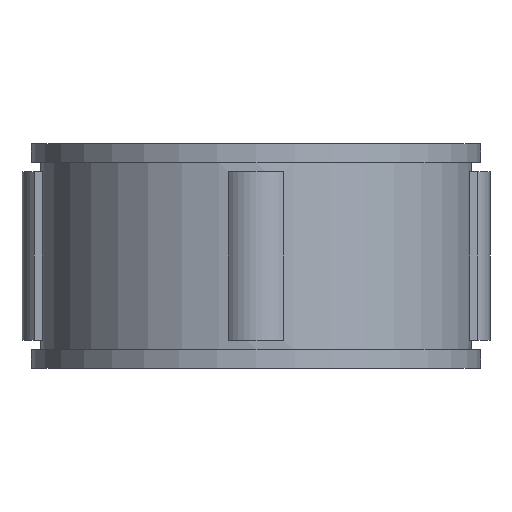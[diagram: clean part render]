
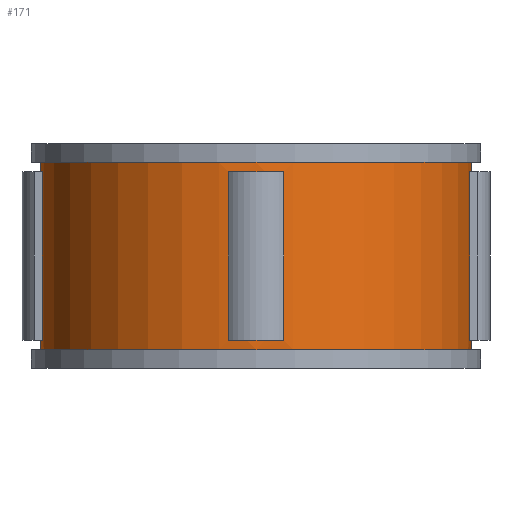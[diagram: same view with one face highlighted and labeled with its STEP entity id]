
A CAD part, front view. The second image highlights one B-rep face of the part: STEP entity #171.
In plain terms, the highlighted cylindrical face has radius 11.5 mm (diameter 23 mm), a full revolution.
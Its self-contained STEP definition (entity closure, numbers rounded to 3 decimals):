
#171=ADVANCED_FACE('',(#359,#360,#361,#362,#363,#364),#219,.T.);
#219=CYLINDRICAL_SURFACE('',#882,11.5);
#231=LINE('',#1207,#295);
#232=LINE('',#1212,#296);
#233=LINE('',#1215,#297);
#234=LINE('',#1220,#298);
#235=LINE('',#1223,#299);
#236=LINE('',#1228,#300);
#237=LINE('',#1234,#301);
#238=LINE('',#1238,#302);
#295=VECTOR('',#966,1.);
#296=VECTOR('',#969,1.);
#297=VECTOR('',#972,1.);
#298=VECTOR('',#975,1.);
#299=VECTOR('',#978,1.);
#300=VECTOR('',#981,1.);
#301=VECTOR('',#986,1.);
#302=VECTOR('',#989,1.);
#359=FACE_BOUND('',#383,.T.);
#360=FACE_BOUND('',#384,.T.);
#361=FACE_BOUND('',#385,.T.);
#362=FACE_BOUND('',#386,.T.);
#363=FACE_BOUND('',#387,.T.);
#364=FACE_BOUND('',#388,.T.);
#383=EDGE_LOOP('',(#447));
#384=EDGE_LOOP('',(#448));
#385=EDGE_LOOP('',(#449,#450,#451,#452));
#386=EDGE_LOOP('',(#453,#454,#455,#456));
#387=EDGE_LOOP('',(#457,#458,#459,#460));
#388=EDGE_LOOP('',(#461,#462,#463,#464));
#447=ORIENTED_EDGE('',*,*,#727,.F.);
#448=ORIENTED_EDGE('',*,*,#728,.T.);
#449=ORIENTED_EDGE('',*,*,#729,.F.);
#450=ORIENTED_EDGE('',*,*,#730,.T.);
#451=ORIENTED_EDGE('',*,*,#731,.F.);
#452=ORIENTED_EDGE('',*,*,#732,.F.);
#453=ORIENTED_EDGE('',*,*,#733,.F.);
#454=ORIENTED_EDGE('',*,*,#734,.T.);
#455=ORIENTED_EDGE('',*,*,#735,.F.);
#456=ORIENTED_EDGE('',*,*,#736,.F.);
#457=ORIENTED_EDGE('',*,*,#737,.F.);
#458=ORIENTED_EDGE('',*,*,#738,.T.);
#459=ORIENTED_EDGE('',*,*,#739,.F.);
#460=ORIENTED_EDGE('',*,*,#740,.F.);
#461=ORIENTED_EDGE('',*,*,#741,.F.);
#462=ORIENTED_EDGE('',*,*,#742,.T.);
#463=ORIENTED_EDGE('',*,*,#743,.T.);
#464=ORIENTED_EDGE('',*,*,#744,.T.);
#655=VERTEX_POINT('',#1204);
#656=VERTEX_POINT('',#1206);
#657=VERTEX_POINT('',#1208);
#658=VERTEX_POINT('',#1209);
#659=VERTEX_POINT('',#1211);
#660=VERTEX_POINT('',#1213);
#661=VERTEX_POINT('',#1216);
#662=VERTEX_POINT('',#1217);
#663=VERTEX_POINT('',#1219);
#664=VERTEX_POINT('',#1221);
#665=VERTEX_POINT('',#1224);
#666=VERTEX_POINT('',#1225);
#667=VERTEX_POINT('',#1227);
#668=VERTEX_POINT('',#1229);
#669=VERTEX_POINT('',#1232);
#670=VERTEX_POINT('',#1233);
#671=VERTEX_POINT('',#1235);
#672=VERTEX_POINT('',#1237);
#727=EDGE_CURVE('',#655,#655,#831,.T.);
#728=EDGE_CURVE('',#656,#656,#832,.T.);
#729=EDGE_CURVE('',#657,#658,#231,.T.);
#730=EDGE_CURVE('',#657,#659,#833,.T.);
#731=EDGE_CURVE('',#660,#659,#232,.T.);
#732=EDGE_CURVE('',#658,#660,#834,.T.);
#733=EDGE_CURVE('',#661,#662,#233,.T.);
#734=EDGE_CURVE('',#661,#663,#835,.T.);
#735=EDGE_CURVE('',#664,#663,#234,.T.);
#736=EDGE_CURVE('',#662,#664,#836,.T.);
#737=EDGE_CURVE('',#665,#666,#235,.T.);
#738=EDGE_CURVE('',#665,#667,#837,.T.);
#739=EDGE_CURVE('',#668,#667,#236,.T.);
#740=EDGE_CURVE('',#666,#668,#838,.T.);
#741=EDGE_CURVE('',#669,#670,#839,.T.);
#742=EDGE_CURVE('',#669,#671,#237,.T.);
#743=EDGE_CURVE('',#671,#672,#840,.T.);
#744=EDGE_CURVE('',#672,#670,#238,.T.);
#831=CIRCLE('',#872,11.5);
#832=CIRCLE('',#873,11.5);
#833=CIRCLE('',#874,11.5);
#834=CIRCLE('',#875,11.5);
#835=CIRCLE('',#876,11.5);
#836=CIRCLE('',#877,11.5);
#837=CIRCLE('',#878,11.5);
#838=CIRCLE('',#879,11.5);
#839=CIRCLE('',#880,11.5);
#840=CIRCLE('',#881,11.5);
#872=AXIS2_PLACEMENT_3D('',#1203,#962,#963);
#873=AXIS2_PLACEMENT_3D('',#1205,#964,#965);
#874=AXIS2_PLACEMENT_3D('',#1210,#967,#968);
#875=AXIS2_PLACEMENT_3D('',#1214,#970,#971);
#876=AXIS2_PLACEMENT_3D('',#1218,#973,#974);
#877=AXIS2_PLACEMENT_3D('',#1222,#976,#977);
#878=AXIS2_PLACEMENT_3D('',#1226,#979,#980);
#879=AXIS2_PLACEMENT_3D('',#1230,#982,#983);
#880=AXIS2_PLACEMENT_3D('',#1231,#984,#985);
#881=AXIS2_PLACEMENT_3D('',#1236,#987,#988);
#882=AXIS2_PLACEMENT_3D('',#1239,#990,#991);
#962=DIRECTION('',(0.,0.,1.));
#963=DIRECTION('',(1.,0.,0.));
#964=DIRECTION('',(0.,0.,1.));
#965=DIRECTION('',(1.,0.,0.));
#966=DIRECTION('',(0.,0.,-1.));
#967=DIRECTION('',(0.,0.,1.));
#968=DIRECTION('',(1.,0.,0.));
#969=DIRECTION('',(0.,0.,1.));
#970=DIRECTION('',(0.,0.,1.));
#971=DIRECTION('',(1.,0.,0.));
#972=DIRECTION('',(0.,0.,-1.));
#973=DIRECTION('',(0.,0.,1.));
#974=DIRECTION('',(1.,0.,0.));
#975=DIRECTION('',(0.,0.,1.));
#976=DIRECTION('',(0.,0.,1.));
#977=DIRECTION('',(1.,0.,0.));
#978=DIRECTION('',(0.,0.,-1.));
#979=DIRECTION('',(0.,0.,1.));
#980=DIRECTION('',(1.,0.,0.));
#981=DIRECTION('',(0.,0.,1.));
#982=DIRECTION('',(0.,0.,1.));
#983=DIRECTION('',(1.,0.,0.));
#984=DIRECTION('',(0.,0.,-1.));
#985=DIRECTION('',(-1.,0.,0.));
#986=DIRECTION('',(0.,0.,-1.));
#987=DIRECTION('',(0.,0.,-1.));
#988=DIRECTION('',(-1.,0.,0.));
#989=DIRECTION('',(0.,0.,1.));
#990=DIRECTION('',(0.,0.,-1.));
#991=DIRECTION('',(-1.,0.,0.));
#1203=CARTESIAN_POINT('',(0.,0.,11.));
#1204=CARTESIAN_POINT('',(11.5,0.,11.));
#1205=CARTESIAN_POINT('',(0.,0.,1.));
#1206=CARTESIAN_POINT('',(11.5,0.,1.));
#1207=CARTESIAN_POINT('',(11.406,-1.471,12.));
#1208=CARTESIAN_POINT('',(11.406,-1.471,10.5));
#1209=CARTESIAN_POINT('',(11.406,-1.471,1.5));
#1210=CARTESIAN_POINT('',(0.,0.,10.5));
#1211=CARTESIAN_POINT('',(11.406,1.471,10.5));
#1212=CARTESIAN_POINT('',(11.406,1.471,12.));
#1213=CARTESIAN_POINT('',(11.406,1.471,1.5));
#1214=CARTESIAN_POINT('',(0.,0.,1.5));
#1215=CARTESIAN_POINT('',(1.471,11.406,12.));
#1216=CARTESIAN_POINT('',(1.471,11.406,10.5));
#1217=CARTESIAN_POINT('',(1.471,11.406,1.5));
#1218=CARTESIAN_POINT('',(0.,0.,10.5));
#1219=CARTESIAN_POINT('',(-1.471,11.406,10.5));
#1220=CARTESIAN_POINT('',(-1.471,11.406,12.));
#1221=CARTESIAN_POINT('',(-1.471,11.406,1.5));
#1222=CARTESIAN_POINT('',(0.,0.,1.5));
#1223=CARTESIAN_POINT('',(-11.406,1.471,12.));
#1224=CARTESIAN_POINT('',(-11.406,1.471,10.5));
#1225=CARTESIAN_POINT('',(-11.406,1.471,1.5));
#1226=CARTESIAN_POINT('',(0.,0.,10.5));
#1227=CARTESIAN_POINT('',(-11.406,-1.471,10.5));
#1228=CARTESIAN_POINT('',(-11.406,-1.471,12.));
#1229=CARTESIAN_POINT('',(-11.406,-1.471,1.5));
#1230=CARTESIAN_POINT('',(0.,0.,1.5));
#1231=CARTESIAN_POINT('',(0.,0.,10.5));
#1232=CARTESIAN_POINT('',(1.471,-11.406,10.5));
#1233=CARTESIAN_POINT('',(-1.471,-11.406,10.5));
#1234=CARTESIAN_POINT('',(1.471,-11.406,12.));
#1235=CARTESIAN_POINT('',(1.471,-11.406,1.5));
#1236=CARTESIAN_POINT('',(0.,0.,1.5));
#1237=CARTESIAN_POINT('',(-1.471,-11.406,1.5));
#1238=CARTESIAN_POINT('',(-1.471,-11.406,12.));
#1239=CARTESIAN_POINT('',(0.,0.,12.));
